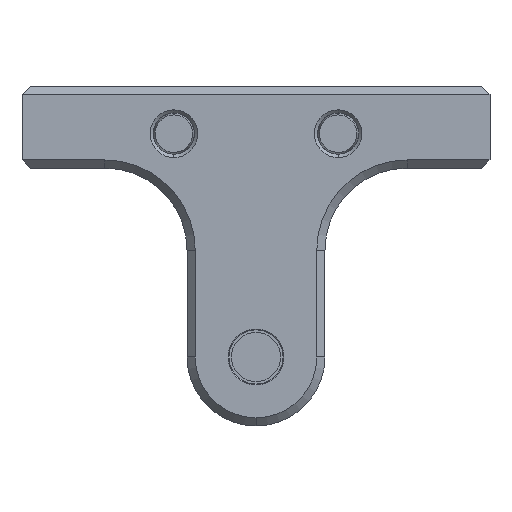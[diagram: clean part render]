
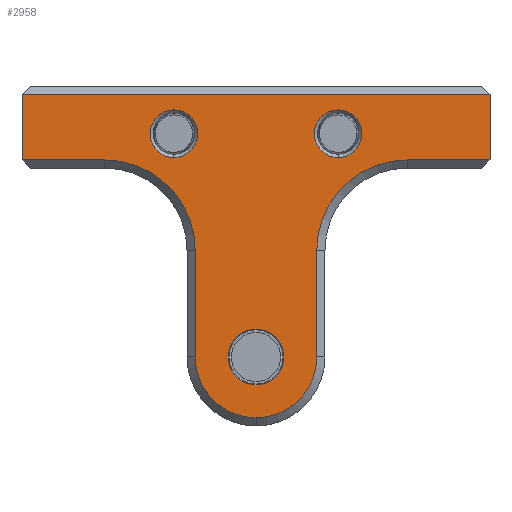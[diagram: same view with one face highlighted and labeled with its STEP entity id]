
A CAD part, front view. The second image highlights one B-rep face of the part: STEP entity #2958.
In plain terms, the highlighted planar face has unit normal (0, -1, 0).
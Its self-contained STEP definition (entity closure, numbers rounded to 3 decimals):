
#56 = CIRCLE ( 'NONE', #1527, 1.7 ) ;
#91 = LINE ( 'NONE', #9244, #6564 ) ;
#115 = VERTEX_POINT ( 'NONE', #300 ) ;
#179 = VERTEX_POINT ( 'NONE', #2884 ) ;
#256 = DIRECTION ( 'NONE',  ( -1., 0., 0. ) ) ;
#284 = ORIENTED_EDGE ( 'NONE', *, *, #915, .T. ) ;
#300 = CARTESIAN_POINT ( 'NONE',  ( 0., 0., -20.2 ) ) ;
#522 = EDGE_CURVE ( 'NONE', #3347, #115, #7656, .T. ) ;
#675 = CARTESIAN_POINT ( 'NONE',  ( 0., 0., -16.5 ) ) ;
#687 = AXIS2_PLACEMENT_3D ( 'NONE', #675, #5450, #2917 ) ;
#789 = ORIENTED_EDGE ( 'NONE', *, *, #8473, .F. ) ;
#797 = DIRECTION ( 'NONE',  ( 0., 1., 0. ) ) ;
#829 = CARTESIAN_POINT ( 'NONE',  ( 5., 0., -2.9 ) ) ;
#848 = VERTEX_POINT ( 'NONE', #5018 ) ;
#871 = CIRCLE ( 'NONE', #9799, 5.5 ) ;
#908 = CIRCLE ( 'NONE', #5119, 1.7 ) ;
#915 = EDGE_CURVE ( 'NONE', #115, #1269, #2629, .T. ) ;
#1136 = EDGE_CURVE ( 'NONE', #1138, #9271, #6946, .T. ) ;
#1138 = VERTEX_POINT ( 'NONE', #2459 ) ;
#1248 = EDGE_CURVE ( 'NONE', #5648, #9271, #6094, .T. ) ;
#1269 = VERTEX_POINT ( 'NONE', #3764 ) ;
#1288 = EDGE_LOOP ( 'NONE', ( #8417, #9288 ) ) ;
#1340 = AXIS2_PLACEMENT_3D ( 'NONE', #7943, #6641, #7349 ) ;
#1404 = VECTOR ( 'NONE', #256, 1000. ) ;
#1513 = DIRECTION ( 'NONE',  ( 0., -1., 0. ) ) ;
#1527 = AXIS2_PLACEMENT_3D ( 'NONE', #6277, #797, #2208 ) ;
#1544 = EDGE_CURVE ( 'NONE', #8749, #7179, #1978, .T. ) ;
#1590 = DIRECTION ( 'NONE',  ( 0., -1., 0. ) ) ;
#1642 = CARTESIAN_POINT ( 'NONE',  ( 0., 0., 0. ) ) ;
#1775 = CARTESIAN_POINT ( 'NONE',  ( -14.25, 0., -4.5 ) ) ;
#1853 = EDGE_LOOP ( 'NONE', ( #4276, #2125 ) ) ;
#1872 = AXIS2_PLACEMENT_3D ( 'NONE', #7607, #8367, #9956 ) ;
#1920 = EDGE_CURVE ( 'NONE', #4107, #9029, #8481, .T. ) ;
#1978 = LINE ( 'NONE', #6604, #5717 ) ;
#2086 = ORIENTED_EDGE ( 'NONE', *, *, #5988, .T. ) ;
#2125 = ORIENTED_EDGE ( 'NONE', *, *, #4836, .T. ) ;
#2208 = DIRECTION ( 'NONE',  ( 0., 0., 1. ) ) ;
#2368 = CARTESIAN_POINT ( 'NONE',  ( -3.7, 0., -16.5 ) ) ;
#2382 = EDGE_CURVE ( 'NONE', #7174, #9588, #56, .T. ) ;
#2459 = CARTESIAN_POINT ( 'NONE',  ( 14.25, 0., -0.5 ) ) ;
#2465 = ORIENTED_EDGE ( 'NONE', *, *, #2893, .F. ) ;
#2557 = EDGE_CURVE ( 'NONE', #2565, #5648, #871, .T. ) ;
#2565 = VERTEX_POINT ( 'NONE', #5002 ) ;
#2629 = CIRCLE ( 'NONE', #1340, 3.7 ) ;
#2865 = ORIENTED_EDGE ( 'NONE', *, *, #7471, .T. ) ;
#2884 = CARTESIAN_POINT ( 'NONE',  ( 5., 0., -1.45 ) ) ;
#2893 = EDGE_CURVE ( 'NONE', #5056, #179, #9329, .T. ) ;
#2917 = DIRECTION ( 'NONE',  ( 0., 0., 1. ) ) ;
#2958 = ADVANCED_FACE ( 'NONE', ( #6458, #9508, #9414, #5543 ), #6503, .F. ) ;
#2996 = CARTESIAN_POINT ( 'NONE',  ( -3.7, 0., 0. ) ) ;
#3001 = CARTESIAN_POINT ( 'NONE',  ( 5., 0., -4.35 ) ) ;
#3055 = DIRECTION ( 'NONE',  ( 0., -1., 0. ) ) ;
#3071 = ORIENTED_EDGE ( 'NONE', *, *, #2557, .T. ) ;
#3118 = ORIENTED_EDGE ( 'NONE', *, *, #5082, .T. ) ;
#3138 = ORIENTED_EDGE ( 'NONE', *, *, #1136, .F. ) ;
#3347 = VERTEX_POINT ( 'NONE', #2368 ) ;
#3558 = DIRECTION ( 'NONE',  ( 0., 0., -1. ) ) ;
#3758 = LINE ( 'NONE', #2996, #6239 ) ;
#3764 = CARTESIAN_POINT ( 'NONE',  ( 3.7, 0., -16.5 ) ) ;
#3814 = CARTESIAN_POINT ( 'NONE',  ( -5., 0., -2.9 ) ) ;
#3951 = ORIENTED_EDGE ( 'NONE', *, *, #1248, .T. ) ;
#3992 = CIRCLE ( 'NONE', #1872, 5.5 ) ;
#4015 = EDGE_CURVE ( 'NONE', #9642, #3347, #3758, .T. ) ;
#4074 = DIRECTION ( 'NONE',  ( 0., 1., 0. ) ) ;
#4107 = VERTEX_POINT ( 'NONE', #6559 ) ;
#4153 = CIRCLE ( 'NONE', #4796, 1.45 ) ;
#4252 = CARTESIAN_POINT ( 'NONE',  ( -5., 0., -2.9 ) ) ;
#4275 = LINE ( 'NONE', #5787, #1404 ) ;
#4276 = ORIENTED_EDGE ( 'NONE', *, *, #2382, .T. ) ;
#4459 = EDGE_CURVE ( 'NONE', #7179, #848, #91, .T. ) ;
#4623 = ORIENTED_EDGE ( 'NONE', *, *, #4015, .T. ) ;
#4628 = AXIS2_PLACEMENT_3D ( 'NONE', #1642, #4074, #5592 ) ;
#4746 = DIRECTION ( 'NONE',  ( 0., 0., 1. ) ) ;
#4796 = AXIS2_PLACEMENT_3D ( 'NONE', #3814, #3055, #8325 ) ;
#4836 = EDGE_CURVE ( 'NONE', #9588, #7174, #908, .T. ) ;
#5002 = CARTESIAN_POINT ( 'NONE',  ( 3.7, 0., -10. ) ) ;
#5018 = CARTESIAN_POINT ( 'NONE',  ( -9.2, 0., -4.5 ) ) ;
#5056 = VERTEX_POINT ( 'NONE', #3001 ) ;
#5082 = EDGE_CURVE ( 'NONE', #1269, #2565, #9863, .T. ) ;
#5107 = EDGE_CURVE ( 'NONE', #9029, #4107, #4153, .T. ) ;
#5119 = AXIS2_PLACEMENT_3D ( 'NONE', #7219, #8600, #4746 ) ;
#5188 = DIRECTION ( 'NONE',  ( 0., 0., 1. ) ) ;
#5242 = AXIS2_PLACEMENT_3D ( 'NONE', #4252, #9536, #7346 ) ;
#5287 = VECTOR ( 'NONE', #5188, 1000. ) ;
#5450 = DIRECTION ( 'NONE',  ( 0., -1., 0. ) ) ;
#5465 = ORIENTED_EDGE ( 'NONE', *, *, #1544, .T. ) ;
#5523 = DIRECTION ( 'NONE',  ( 1., 0., 0. ) ) ;
#5543 = FACE_OUTER_BOUND ( 'NONE', #9816, .T. ) ;
#5579 = AXIS2_PLACEMENT_3D ( 'NONE', #829, #1590, #6982 ) ;
#5592 = DIRECTION ( 'NONE',  ( 0., 0., 1. ) ) ;
#5602 = CARTESIAN_POINT ( 'NONE',  ( -3.7, 0., -10. ) ) ;
#5648 = VERTEX_POINT ( 'NONE', #9330 ) ;
#5717 = VECTOR ( 'NONE', #3558, 1000. ) ;
#5787 = CARTESIAN_POINT ( 'NONE',  ( 0., 0., -0.5 ) ) ;
#5988 = EDGE_CURVE ( 'NONE', #1138, #8749, #4275, .T. ) ;
#5994 = CARTESIAN_POINT ( 'NONE',  ( 3.7, 0., -10. ) ) ;
#6094 = LINE ( 'NONE', #9361, #7818 ) ;
#6239 = VECTOR ( 'NONE', #9197, 1000. ) ;
#6277 = CARTESIAN_POINT ( 'NONE',  ( 0., 0., -16.5 ) ) ;
#6368 = VECTOR ( 'NONE', #8567, 1000. ) ;
#6417 = DIRECTION ( 'NONE',  ( 0., 1., 0. ) ) ;
#6458 = FACE_BOUND ( 'NONE', #7950, .T. ) ;
#6503 = PLANE ( 'NONE',  #4628 ) ;
#6537 = ORIENTED_EDGE ( 'NONE', *, *, #4459, .T. ) ;
#6545 = CARTESIAN_POINT ( 'NONE',  ( 0., 0., -14.8 ) ) ;
#6559 = CARTESIAN_POINT ( 'NONE',  ( -5., 0., -4.35 ) ) ;
#6564 = VECTOR ( 'NONE', #5523, 1000. ) ;
#6589 = CIRCLE ( 'NONE', #8862, 1.45 ) ;
#6604 = CARTESIAN_POINT ( 'NONE',  ( -14.25, 0., 0. ) ) ;
#6641 = DIRECTION ( 'NONE',  ( 0., -1., 0. ) ) ;
#6833 = ORIENTED_EDGE ( 'NONE', *, *, #522, .T. ) ;
#6946 = LINE ( 'NONE', #8614, #6368 ) ;
#6982 = DIRECTION ( 'NONE',  ( 0., 0., -1. ) ) ;
#7174 = VERTEX_POINT ( 'NONE', #6545 ) ;
#7179 = VERTEX_POINT ( 'NONE', #1775 ) ;
#7219 = CARTESIAN_POINT ( 'NONE',  ( 0., 0., -16.5 ) ) ;
#7346 = DIRECTION ( 'NONE',  ( 0., 0., -1. ) ) ;
#7349 = DIRECTION ( 'NONE',  ( 0., 0., 1. ) ) ;
#7427 = CARTESIAN_POINT ( 'NONE',  ( -5., 0., -1.45 ) ) ;
#7471 = EDGE_CURVE ( 'NONE', #848, #9642, #3992, .T. ) ;
#7607 = CARTESIAN_POINT ( 'NONE',  ( -9.2, 0., -10. ) ) ;
#7656 = CIRCLE ( 'NONE', #687, 3.7 ) ;
#7818 = VECTOR ( 'NONE', #8534, 1000. ) ;
#7943 = CARTESIAN_POINT ( 'NONE',  ( 0., 0., -16.5 ) ) ;
#7950 = EDGE_LOOP ( 'NONE', ( #2465, #789 ) ) ;
#8306 = CARTESIAN_POINT ( 'NONE',  ( 5., 0., -2.9 ) ) ;
#8325 = DIRECTION ( 'NONE',  ( 0., 0., -1. ) ) ;
#8367 = DIRECTION ( 'NONE',  ( 0., 1., 0. ) ) ;
#8417 = ORIENTED_EDGE ( 'NONE', *, *, #1920, .F. ) ;
#8457 = DIRECTION ( 'NONE',  ( 0., 0., -1. ) ) ;
#8473 = EDGE_CURVE ( 'NONE', #179, #5056, #6589, .T. ) ;
#8481 = CIRCLE ( 'NONE', #5242, 1.45 ) ;
#8534 = DIRECTION ( 'NONE',  ( 1., 0., 0. ) ) ;
#8567 = DIRECTION ( 'NONE',  ( 0., 0., -1. ) ) ;
#8600 = DIRECTION ( 'NONE',  ( 0., 1., 0. ) ) ;
#8614 = CARTESIAN_POINT ( 'NONE',  ( 14.25, 0., 0. ) ) ;
#8749 = VERTEX_POINT ( 'NONE', #9421 ) ;
#8860 = CARTESIAN_POINT ( 'NONE',  ( 9.2, 0., -10. ) ) ;
#8862 = AXIS2_PLACEMENT_3D ( 'NONE', #8306, #1513, #8457 ) ;
#8890 = CARTESIAN_POINT ( 'NONE',  ( 0., 0., -18.2 ) ) ;
#9029 = VERTEX_POINT ( 'NONE', #7427 ) ;
#9197 = DIRECTION ( 'NONE',  ( 0., 0., -1. ) ) ;
#9244 = CARTESIAN_POINT ( 'NONE',  ( -9.2, 0., -4.5 ) ) ;
#9271 = VERTEX_POINT ( 'NONE', #9657 ) ;
#9288 = ORIENTED_EDGE ( 'NONE', *, *, #5107, .F. ) ;
#9329 = CIRCLE ( 'NONE', #5579, 1.45 ) ;
#9330 = CARTESIAN_POINT ( 'NONE',  ( 9.2, 0., -4.5 ) ) ;
#9361 = CARTESIAN_POINT ( 'NONE',  ( 14.25, 0., -4.5 ) ) ;
#9414 = FACE_BOUND ( 'NONE', #1853, .T. ) ;
#9421 = CARTESIAN_POINT ( 'NONE',  ( -14.25, 0., -0.5 ) ) ;
#9508 = FACE_BOUND ( 'NONE', #1288, .T. ) ;
#9523 = DIRECTION ( 'NONE',  ( 0., 0., 1. ) ) ;
#9536 = DIRECTION ( 'NONE',  ( 0., -1., 0. ) ) ;
#9588 = VERTEX_POINT ( 'NONE', #8890 ) ;
#9642 = VERTEX_POINT ( 'NONE', #5602 ) ;
#9657 = CARTESIAN_POINT ( 'NONE',  ( 14.25, 0., -4.5 ) ) ;
#9799 = AXIS2_PLACEMENT_3D ( 'NONE', #8860, #6417, #9523 ) ;
#9816 = EDGE_LOOP ( 'NONE', ( #3071, #3951, #3138, #2086, #5465, #6537, #2865, #4623, #6833, #284, #3118 ) ) ;
#9863 = LINE ( 'NONE', #5994, #5287 ) ;
#9956 = DIRECTION ( 'NONE',  ( 0., 0., 1. ) ) ;
